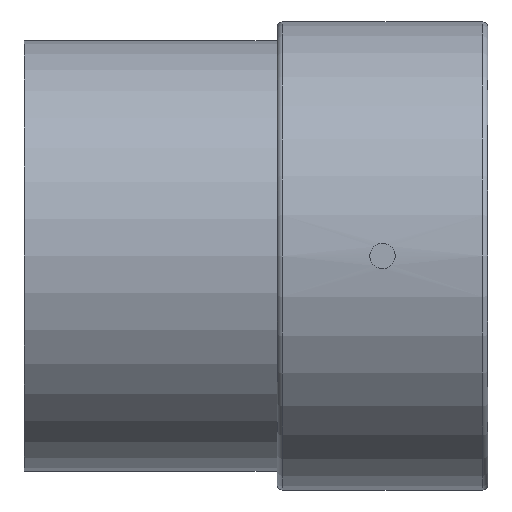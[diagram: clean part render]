
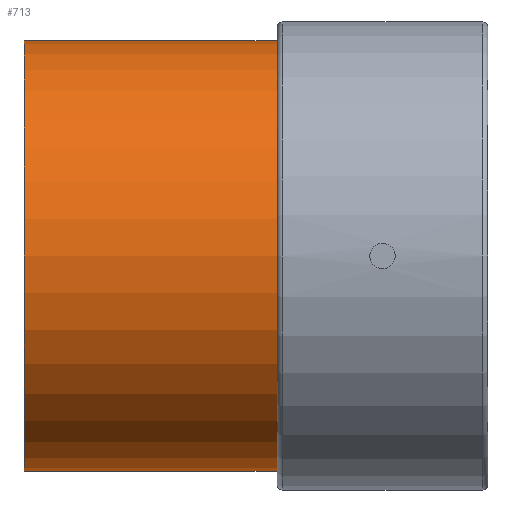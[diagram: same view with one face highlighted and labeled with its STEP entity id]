
A CAD part, left-side view. The second image highlights one B-rep face of the part: STEP entity #713.
In plain terms, the highlighted cylindrical face has radius 51 mm (diameter 102 mm), a partial arc.
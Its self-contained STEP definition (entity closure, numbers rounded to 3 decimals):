
#346 = AXIS2_PLACEMENT_3D ( 'NONE', #3772, #2583, #3409 ) ;
#403 = EDGE_CURVE ( 'NONE', #3676, #612, #2072, .T. ) ;
#424 = LINE ( 'NONE', #1605, #3787 ) ;
#550 = CARTESIAN_POINT ( 'NONE',  ( 0., 50., 51. ) ) ;
#612 = VERTEX_POINT ( 'NONE', #550 ) ;
#696 = CIRCLE ( 'NONE', #2061, 51. ) ;
#713 = ADVANCED_FACE ( 'NONE', ( #3452 ), #2257, .T. ) ;
#745 = CARTESIAN_POINT ( 'NONE',  ( 0., 50., -51. ) ) ;
#1136 = ORIENTED_EDGE ( 'NONE', *, *, #3354, .F. ) ;
#1505 = EDGE_CURVE ( 'NONE', #3428, #612, #1809, .T. ) ;
#1543 = CARTESIAN_POINT ( 'NONE',  ( 0., 110., 51. ) ) ;
#1605 = CARTESIAN_POINT ( 'NONE',  ( 0., 110., -51. ) ) ;
#1662 = DIRECTION ( 'NONE',  ( 0., 1., 0. ) ) ;
#1809 = LINE ( 'NONE', #1543, #3578 ) ;
#1975 = DIRECTION ( 'NONE',  ( 0., 0., 1. ) ) ;
#2041 = DIRECTION ( 'NONE',  ( 0., -1., 0. ) ) ;
#2061 = AXIS2_PLACEMENT_3D ( 'NONE', #3098, #1662, #1975 ) ;
#2072 = CIRCLE ( 'NONE', #3507, 51. ) ;
#2145 = ORIENTED_EDGE ( 'NONE', *, *, #3150, .T. ) ;
#2176 = ORIENTED_EDGE ( 'NONE', *, *, #403, .T. ) ;
#2257 = CYLINDRICAL_SURFACE ( 'NONE', #346, 51. ) ;
#2297 = CARTESIAN_POINT ( 'NONE',  ( 0., 110., 51. ) ) ;
#2367 = EDGE_LOOP ( 'NONE', ( #3473, #1136, #2145, #2176 ) ) ;
#2583 = DIRECTION ( 'NONE',  ( 0., -1., 0. ) ) ;
#2669 = VERTEX_POINT ( 'NONE', #3566 ) ;
#2895 = CARTESIAN_POINT ( 'NONE',  ( 0., 50., 0. ) ) ;
#3098 = CARTESIAN_POINT ( 'NONE',  ( 0., 110., 0. ) ) ;
#3150 = EDGE_CURVE ( 'NONE', #2669, #3676, #424, .T. ) ;
#3240 = DIRECTION ( 'NONE',  ( 0., 0., 1. ) ) ;
#3354 = EDGE_CURVE ( 'NONE', #2669, #3428, #696, .T. ) ;
#3409 = DIRECTION ( 'NONE',  ( 0., 0., -1. ) ) ;
#3428 = VERTEX_POINT ( 'NONE', #2297 ) ;
#3452 = FACE_OUTER_BOUND ( 'NONE', #2367, .T. ) ;
#3473 = ORIENTED_EDGE ( 'NONE', *, *, #1505, .F. ) ;
#3503 = DIRECTION ( 'NONE',  ( 0., 1., 0. ) ) ;
#3507 = AXIS2_PLACEMENT_3D ( 'NONE', #2895, #3503, #3240 ) ;
#3566 = CARTESIAN_POINT ( 'NONE',  ( 0., 110., -51. ) ) ;
#3578 = VECTOR ( 'NONE', #2041, 1000. ) ;
#3676 = VERTEX_POINT ( 'NONE', #745 ) ;
#3709 = DIRECTION ( 'NONE',  ( 0., -1., 0. ) ) ;
#3772 = CARTESIAN_POINT ( 'NONE',  ( 0., 110., 0. ) ) ;
#3787 = VECTOR ( 'NONE', #3709, 1000. ) ;
